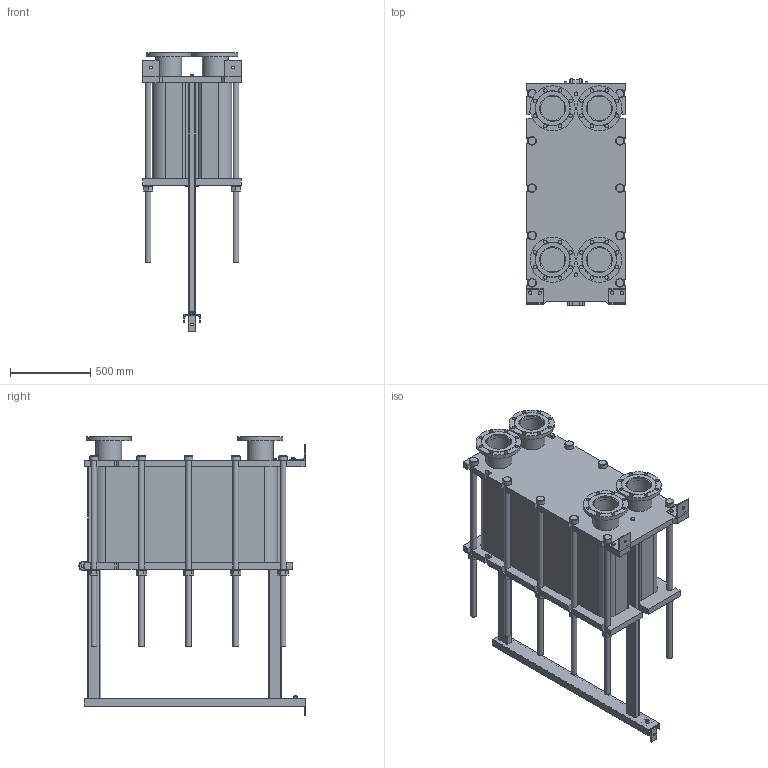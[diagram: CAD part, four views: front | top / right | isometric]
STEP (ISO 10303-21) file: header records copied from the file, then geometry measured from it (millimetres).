
FILE_DESCRIPTION(/* description */ (''),/* implementation_level */ '2;1');
FILE_NAME(/* name */ 'C:\Users\zhuro\Desktop\ENCO\TO\ЭН-041\ЭН-0,5-041-173-1.stp',/* time_stamp */ '2022-06-06T11:04:45+03:00',/* author */ ('zhuro'),/* organization */ (''),/* preprocessor_version */ 'ST-DEVELOPER v18.1',/* originating_system */ 'Autodesk Inventor 2022',/* authorisation */ '');
FILE_SCHEMA (('AUTOMOTIVE_DESIGN { 1 0 10303 214 3 1 1 }'));
Length unit declared in the file: millimetre
Products named in the file (1): ЭН-0,5-041-173-1
Bounding box: 610 x 1406.5 x 1737.5 mm (x, y, z)
Volume: 421293738.5 mm3; surface area: 10634101.3 mm2
Topology: 52 solids, 52 shells, 711 faces, 1696 edges, 1094 vertices
Faces by surface type: plane 487, cylinder 177, cone 41, torus 6
Full cylindrical faces by diameter (mm): 8 x4, 10 x2, 16 x8, 18 x3, 22 x32, 36 x24, 50 x1, 54 x10, 60 x12, 151 x4, 161 x8, 280 x4
Entity records: 22667 total; most frequent: CARTESIAN_POINT 5230, DIRECTION 3644, ORIENTED_EDGE 3392, EDGE_CURVE 1696, AXIS2_PLACEMENT_3D 1272, LINE 1100, VECTOR 1100, VERTEX_POINT 1094
